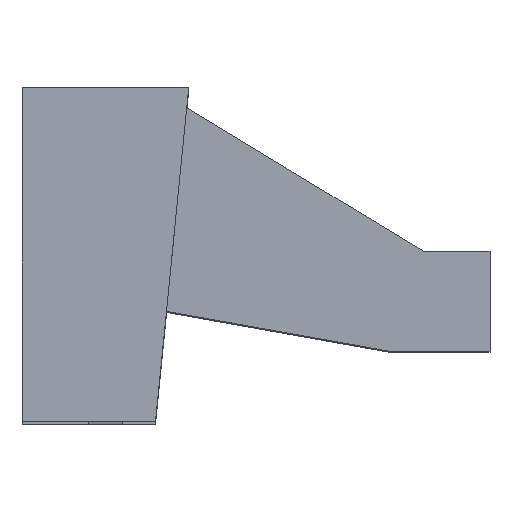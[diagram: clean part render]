
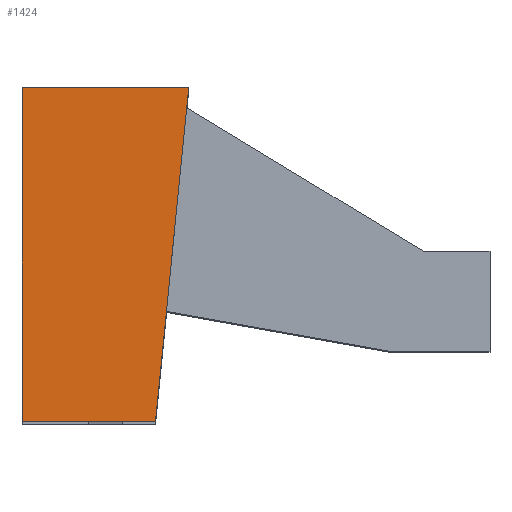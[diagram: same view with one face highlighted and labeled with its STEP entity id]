
A CAD part, top view. The second image highlights one B-rep face of the part: STEP entity #1424.
In plain terms, the highlighted planar face has unit normal (0, 0, 1).
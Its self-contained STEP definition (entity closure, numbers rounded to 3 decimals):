
#72 = PLANE('',#73);
#73 = AXIS2_PLACEMENT_3D('',#74,#75,#76);
#74 = CARTESIAN_POINT('',(-27.875,30.,26.125));
#75 = DIRECTION('',(0.,1.,0.));
#76 = DIRECTION('',(0.,0.,-1.));
#1149 = PLANE('',#1150);
#1150 = AXIS2_PLACEMENT_3D('',#1151,#1152,#1153);
#1151 = CARTESIAN_POINT('',(-25.5,25.,51.5));
#1152 = DIRECTION('',(0.995,-0.1,
    0.));
#1153 = DIRECTION('',(0.,0.,1.));
#1175 = PLANE('',#1176);
#1176 = AXIS2_PLACEMENT_3D('',#1177,#1178,#1179);
#1177 = CARTESIAN_POINT('',(-27.833,20.,26.));
#1178 = DIRECTION('',(0.,-1.,0.));
#1179 = DIRECTION('',(-0.,0.,1.));
#1213 = PLANE('',#1214);
#1214 = AXIS2_PLACEMENT_3D('',#1215,#1216,#1217);
#1215 = CARTESIAN_POINT('',(-30.,25.,51.5));
#1216 = DIRECTION('',(1.,0.,0.));
#1217 = DIRECTION('',(0.,0.,1.));
#1283 = VERTEX_POINT('',#1284);
#1284 = CARTESIAN_POINT('',(-30.,20.,52.));
#1305 = EDGE_CURVE('',#1283,#1306,#1308,.T.);
#1306 = VERTEX_POINT('',#1307);
#1307 = CARTESIAN_POINT('',(-30.,30.,52.));
#1308 = SURFACE_CURVE('',#1309,(#1313,#1320),.PCURVE_S1.);
#1309 = LINE('',#1310,#1311);
#1310 = CARTESIAN_POINT('',(-30.,20.,52.));
#1311 = VECTOR('',#1312,1.);
#1312 = DIRECTION('',(0.,1.,0.));
#1313 = PCURVE('',#1213,#1314);
#1314 = DEFINITIONAL_REPRESENTATION('',(#1315),#1319);
#1315 = LINE('',#1316,#1317);
#1316 = CARTESIAN_POINT('',(0.5,5.));
#1317 = VECTOR('',#1318,1.);
#1318 = DIRECTION('',(0.,-1.));
#1319 = ( GEOMETRIC_REPRESENTATION_CONTEXT(2) 
PARAMETRIC_REPRESENTATION_CONTEXT() REPRESENTATION_CONTEXT('2D SPACE',''
  ) );
#1320 = PCURVE('',#1321,#1326);
#1321 = PLANE('',#1322);
#1322 = AXIS2_PLACEMENT_3D('',#1323,#1324,#1325);
#1323 = CARTESIAN_POINT('',(-27.75,25.,52.));
#1324 = DIRECTION('',(0.,0.,1.));
#1325 = DIRECTION('',(0.,1.,0.));
#1326 = DEFINITIONAL_REPRESENTATION('',(#1327),#1331);
#1327 = LINE('',#1328,#1329);
#1328 = CARTESIAN_POINT('',(-5.,2.25));
#1329 = VECTOR('',#1330,1.);
#1330 = DIRECTION('',(1.,0.));
#1331 = ( GEOMETRIC_REPRESENTATION_CONTEXT(2) 
PARAMETRIC_REPRESENTATION_CONTEXT() REPRESENTATION_CONTEXT('2D SPACE',''
  ) );
#1359 = VERTEX_POINT('',#1360);
#1360 = CARTESIAN_POINT('',(-25.,30.,52.));
#1381 = EDGE_CURVE('',#1359,#1382,#1384,.T.);
#1382 = VERTEX_POINT('',#1383);
#1383 = CARTESIAN_POINT('',(-26.,20.,52.));
#1384 = SURFACE_CURVE('',#1385,(#1389,#1396),.PCURVE_S1.);
#1385 = LINE('',#1386,#1387);
#1386 = CARTESIAN_POINT('',(-25.,30.,52.));
#1387 = VECTOR('',#1388,1.);
#1388 = DIRECTION('',(-0.1,-0.995,0.));
#1389 = PCURVE('',#1149,#1390);
#1390 = DEFINITIONAL_REPRESENTATION('',(#1391),#1395);
#1391 = LINE('',#1392,#1393);
#1392 = CARTESIAN_POINT('',(0.5,-5.025));
#1393 = VECTOR('',#1394,1.);
#1394 = DIRECTION('',(0.,1.));
#1395 = ( GEOMETRIC_REPRESENTATION_CONTEXT(2) 
PARAMETRIC_REPRESENTATION_CONTEXT() REPRESENTATION_CONTEXT('2D SPACE',''
  ) );
#1396 = PCURVE('',#1321,#1397);
#1397 = DEFINITIONAL_REPRESENTATION('',(#1398),#1402);
#1398 = LINE('',#1399,#1400);
#1399 = CARTESIAN_POINT('',(5.,-2.75));
#1400 = VECTOR('',#1401,1.);
#1401 = DIRECTION('',(-0.995,0.1));
#1402 = ( GEOMETRIC_REPRESENTATION_CONTEXT(2) 
PARAMETRIC_REPRESENTATION_CONTEXT() REPRESENTATION_CONTEXT('2D SPACE',''
  ) );
#1424 = ADVANCED_FACE('',(#1425),#1321,.T.);
#1425 = FACE_BOUND('',#1426,.T.);
#1426 = EDGE_LOOP('',(#1427,#1448,#1449,#1470));
#1427 = ORIENTED_EDGE('',*,*,#1428,.T.);
#1428 = EDGE_CURVE('',#1283,#1382,#1429,.T.);
#1429 = SURFACE_CURVE('',#1430,(#1434,#1441),.PCURVE_S1.);
#1430 = LINE('',#1431,#1432);
#1431 = CARTESIAN_POINT('',(-30.,20.,52.));
#1432 = VECTOR('',#1433,1.);
#1433 = DIRECTION('',(1.,0.,0.));
#1434 = PCURVE('',#1321,#1435);
#1435 = DEFINITIONAL_REPRESENTATION('',(#1436),#1440);
#1436 = LINE('',#1437,#1438);
#1437 = CARTESIAN_POINT('',(-5.,2.25));
#1438 = VECTOR('',#1439,1.);
#1439 = DIRECTION('',(0.,-1.));
#1440 = ( GEOMETRIC_REPRESENTATION_CONTEXT(2) 
PARAMETRIC_REPRESENTATION_CONTEXT() REPRESENTATION_CONTEXT('2D SPACE',''
  ) );
#1441 = PCURVE('',#1175,#1442);
#1442 = DEFINITIONAL_REPRESENTATION('',(#1443),#1447);
#1443 = LINE('',#1444,#1445);
#1444 = CARTESIAN_POINT('',(26.,2.167));
#1445 = VECTOR('',#1446,1.);
#1446 = DIRECTION('',(0.,-1.));
#1447 = ( GEOMETRIC_REPRESENTATION_CONTEXT(2) 
PARAMETRIC_REPRESENTATION_CONTEXT() REPRESENTATION_CONTEXT('2D SPACE',''
  ) );
#1448 = ORIENTED_EDGE('',*,*,#1381,.F.);
#1449 = ORIENTED_EDGE('',*,*,#1450,.T.);
#1450 = EDGE_CURVE('',#1359,#1306,#1451,.T.);
#1451 = SURFACE_CURVE('',#1452,(#1456,#1463),.PCURVE_S1.);
#1452 = LINE('',#1453,#1454);
#1453 = CARTESIAN_POINT('',(-25.,30.,52.));
#1454 = VECTOR('',#1455,1.);
#1455 = DIRECTION('',(-1.,0.,0.));
#1456 = PCURVE('',#1321,#1457);
#1457 = DEFINITIONAL_REPRESENTATION('',(#1458),#1462);
#1458 = LINE('',#1459,#1460);
#1459 = CARTESIAN_POINT('',(5.,-2.75));
#1460 = VECTOR('',#1461,1.);
#1461 = DIRECTION('',(0.,1.));
#1462 = ( GEOMETRIC_REPRESENTATION_CONTEXT(2) 
PARAMETRIC_REPRESENTATION_CONTEXT() REPRESENTATION_CONTEXT('2D SPACE',''
  ) );
#1463 = PCURVE('',#72,#1464);
#1464 = DEFINITIONAL_REPRESENTATION('',(#1465),#1469);
#1465 = LINE('',#1466,#1467);
#1466 = CARTESIAN_POINT('',(-25.875,-2.875));
#1467 = VECTOR('',#1468,1.);
#1468 = DIRECTION('',(0.,1.));
#1469 = ( GEOMETRIC_REPRESENTATION_CONTEXT(2) 
PARAMETRIC_REPRESENTATION_CONTEXT() REPRESENTATION_CONTEXT('2D SPACE',''
  ) );
#1470 = ORIENTED_EDGE('',*,*,#1305,.F.);
